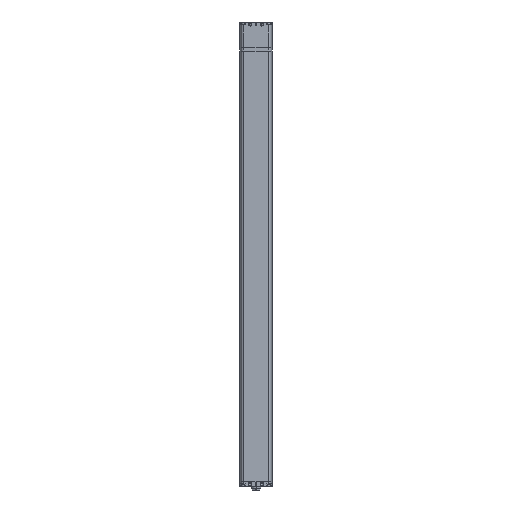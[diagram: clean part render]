
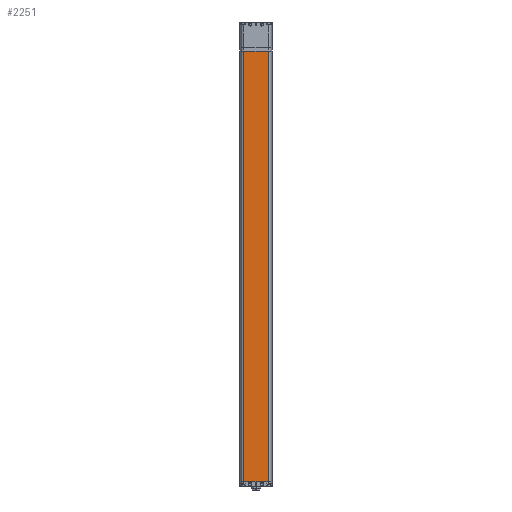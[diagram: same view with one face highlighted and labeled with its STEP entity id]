
A CAD part, front view. The second image highlights one B-rep face of the part: STEP entity #2251.
In plain terms, the highlighted planar face has unit normal (0, -1, 0).
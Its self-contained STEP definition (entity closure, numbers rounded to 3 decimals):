
#466 = DIRECTION ( 'NONE',  ( 0., 0., 1. ) ) ;
#791 = ORIENTED_EDGE ( 'NONE', *, *, #6342, .T. ) ;
#1067 = CARTESIAN_POINT ( 'NONE',  ( -41., -41., -73. ) ) ;
#1243 = EDGE_CURVE ( 'NONE', #10994, #16346, #4456, .T. ) ;
#2251 = ADVANCED_FACE ( 'NONE', ( #21731 ), #21493, .T. ) ;
#2316 = VERTEX_POINT ( 'NONE', #21933 ) ;
#3858 = ORIENTED_EDGE ( 'NONE', *, *, #15675, .T. ) ;
#4456 = LINE ( 'NONE', #1067, #18814 ) ;
#4972 = ORIENTED_EDGE ( 'NONE', *, *, #1243, .F. ) ;
#5122 = ORIENTED_EDGE ( 'NONE', *, *, #19798, .T. ) ;
#6342 = EDGE_CURVE ( 'NONE', #12877, #16346, #12768, .T. ) ;
#6541 = DIRECTION ( 'NONE',  ( 0., 0., -1. ) ) ;
#6634 = VECTOR ( 'NONE', #17700, 1000. ) ;
#8214 = LINE ( 'NONE', #15082, #11873 ) ;
#8387 = VECTOR ( 'NONE', #466, 1000. ) ;
#9337 = CARTESIAN_POINT ( 'NONE',  ( -41., -41., -1073. ) ) ;
#9789 = DIRECTION ( 'NONE',  ( 0., -1., 0. ) ) ;
#10310 = CARTESIAN_POINT ( 'NONE',  ( 31.138, -41., -73. ) ) ;
#10862 = CARTESIAN_POINT ( 'NONE',  ( 31.138, -41., -1151. ) ) ;
#10994 = VERTEX_POINT ( 'NONE', #11686 ) ;
#11023 = DIRECTION ( 'NONE',  ( 1., 0., 0. ) ) ;
#11174 = CARTESIAN_POINT ( 'NONE',  ( 31.138, -41., -1073. ) ) ;
#11686 = CARTESIAN_POINT ( 'NONE',  ( -31.138, -41., -73. ) ) ;
#11873 = VECTOR ( 'NONE', #6541, 1000. ) ;
#12768 = LINE ( 'NONE', #11174, #8387 ) ;
#12877 = VERTEX_POINT ( 'NONE', #10862 ) ;
#15082 = CARTESIAN_POINT ( 'NONE',  ( -31.138, -41., -1073. ) ) ;
#15414 = AXIS2_PLACEMENT_3D ( 'NONE', #9337, #9789, #19805 ) ;
#15675 = EDGE_CURVE ( 'NONE', #2316, #12877, #21562, .T. ) ;
#16346 = VERTEX_POINT ( 'NONE', #10310 ) ;
#16374 = EDGE_LOOP ( 'NONE', ( #5122, #3858, #791, #4972 ) ) ;
#17700 = DIRECTION ( 'NONE',  ( 1., 0., 0. ) ) ;
#18814 = VECTOR ( 'NONE', #11023, 1000. ) ;
#19798 = EDGE_CURVE ( 'NONE', #10994, #2316, #8214, .T. ) ;
#19805 = DIRECTION ( 'NONE',  ( 0., 0., -1. ) ) ;
#21321 = CARTESIAN_POINT ( 'NONE',  ( -41., -41., -1151. ) ) ;
#21493 = PLANE ( 'NONE',  #15414 ) ;
#21562 = LINE ( 'NONE', #21321, #6634 ) ;
#21731 = FACE_OUTER_BOUND ( 'NONE', #16374, .T. ) ;
#21933 = CARTESIAN_POINT ( 'NONE',  ( -31.138, -41., -1151. ) ) ;
